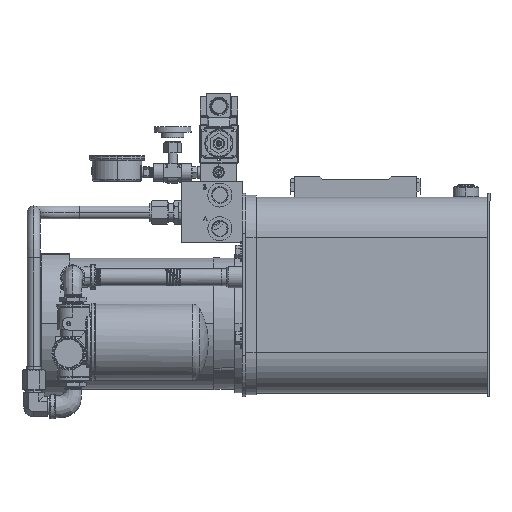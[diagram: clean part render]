
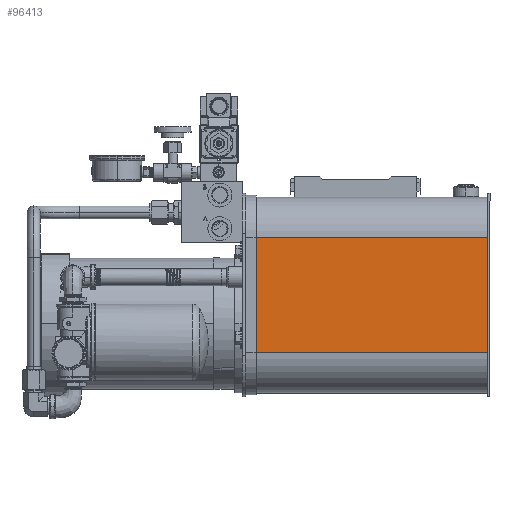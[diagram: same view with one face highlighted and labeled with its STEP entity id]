
A CAD part, top view. The second image highlights one B-rep face of the part: STEP entity #96413.
In plain terms, the highlighted planar face has unit normal (0, 0, 1).
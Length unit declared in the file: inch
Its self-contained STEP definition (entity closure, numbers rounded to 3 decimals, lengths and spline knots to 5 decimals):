
#6716 = VECTOR ( 'NONE', #117138, 39.37008 ) ;
#6721 = FACE_OUTER_BOUND ( 'NONE', #107893, .T. ) ;
#10273 = ORIENTED_EDGE ( 'NONE', *, *, #161546, .T. ) ;
#13936 = LINE ( 'NONE', #87323, #164636 ) ;
#25068 = VERTEX_POINT ( 'NONE', #28544 ) ;
#27414 = VERTEX_POINT ( 'NONE', #79793 ) ;
#28544 = CARTESIAN_POINT ( 'NONE',  ( 7.68416, 5.5236, 18.29139 ) ) ;
#28756 = AXIS2_PLACEMENT_3D ( 'NONE', #173906, #70172, #172912 ) ;
#29964 = VERTEX_POINT ( 'NONE', #33761 ) ;
#33761 = CARTESIAN_POINT ( 'NONE',  ( -4.07124, 11.1486, 18.29139 ) ) ;
#50465 = EDGE_CURVE ( 'NONE', #29964, #170623, #13936, .T. ) ;
#55345 = DIRECTION ( 'NONE',  ( 0., 1., 0. ) ) ;
#59307 = CARTESIAN_POINT ( 'NONE',  ( -4.19624, 5.5236, 18.29139 ) ) ;
#59349 = VECTOR ( 'NONE', #55345, 39.37008 ) ;
#70172 = DIRECTION ( 'NONE',  ( 0., 0., 1. ) ) ;
#79793 = CARTESIAN_POINT ( 'NONE',  ( -4.07124, 5.5236, 18.29139 ) ) ;
#87323 = CARTESIAN_POINT ( 'NONE',  ( -4.19624, 11.1486, 18.29139 ) ) ;
#96413 = ADVANCED_FACE ( 'NONE', ( #6721 ), #157247, .T. ) ;
#99501 = EDGE_CURVE ( 'NONE', #27414, #29964, #149502, .T. ) ;
#101621 = ORIENTED_EDGE ( 'NONE', *, *, #153231, .T. ) ;
#101984 = DIRECTION ( 'NONE',  ( 1., 0., 0. ) ) ;
#104581 = CARTESIAN_POINT ( 'NONE',  ( -4.07124, 5.5236, 18.29139 ) ) ;
#107893 = EDGE_LOOP ( 'NONE', ( #171505, #163407, #101621, #10273 ) ) ;
#113179 = CARTESIAN_POINT ( 'NONE',  ( 7.68416, 13.3361, 18.29139 ) ) ;
#117138 = DIRECTION ( 'NONE',  ( 1., 0., 0. ) ) ;
#120311 = CARTESIAN_POINT ( 'NONE',  ( 7.68416, 11.1486, 18.29139 ) ) ;
#149502 = LINE ( 'NONE', #104581, #185999 ) ;
#153231 = EDGE_CURVE ( 'NONE', #27414, #25068, #177770, .T. ) ;
#157247 = PLANE ( 'NONE',  #28756 ) ;
#161546 = EDGE_CURVE ( 'NONE', #25068, #170623, #170853, .T. ) ;
#163407 = ORIENTED_EDGE ( 'NONE', *, *, #99501, .F. ) ;
#164164 = DIRECTION ( 'NONE',  ( 0., 1., 0. ) ) ;
#164636 = VECTOR ( 'NONE', #101984, 39.37008 ) ;
#170623 = VERTEX_POINT ( 'NONE', #120311 ) ;
#170853 = LINE ( 'NONE', #113179, #59349 ) ;
#171505 = ORIENTED_EDGE ( 'NONE', *, *, #50465, .F. ) ;
#172912 = DIRECTION ( 'NONE',  ( 0., 1., 0. ) ) ;
#173906 = CARTESIAN_POINT ( 'NONE',  ( -4.19624, 5.5236, 18.29139 ) ) ;
#177770 = LINE ( 'NONE', #59307, #6716 ) ;
#185999 = VECTOR ( 'NONE', #164164, 39.37008 ) ;
